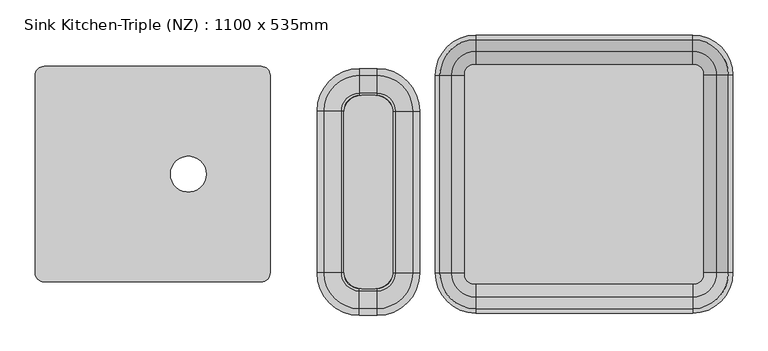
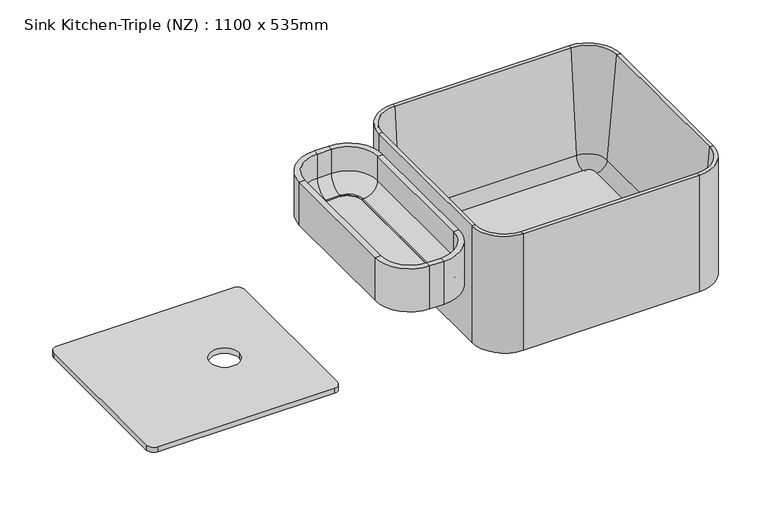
"""IFC4 building model written with IfcOpenShell, lengths in millimetres: flow terminal geometry, Sink Kitchen-Triple (NZ) : 1100 x 535mm."""

from ifc_helpers import new_model, si_unit, point, frame, frame_2d, origin, place, context, project, spatial, polyline, circle_curve, ellipse_curve, trimmed, segment, composite_curve, outline, extrude, source, transform, mapped, element, save
from ifc_brep_helpers import plane_surface, cylinder_surface, revolved_surface, advanced_brep


def sink_kitchen_triple_nz_1100_x_535mm_f9583cc0(model_context):
    return source(origin(), model_context, "Body", "SolidModel", [
        extrude(outline(composite_curve([segment(trimmed(circle_curve(frame_2d((25.2142406, 50.7704011)), 25.4), [point((25.2142406, 76.1704011))], [point((50.6142406, 50.7704011))], False, "CARTESIAN"), True, "CONTINUOUS"), segment(polyline([(50.6142406, 50.7704011), (50.6142406, -173.0795989)]), True, "CONTINUOUS"), segment(trimmed(circle_curve(frame_2d((25.2142406, -173.0795989)), 25.4), [point((50.6142406, -173.0795989))], [point((25.2142406, -198.4795989))], False, "CARTESIAN"), True, "CONTINUOUS"), segment(polyline([(25.2142406, -198.4795989), (6.1642406, -198.4795989)]), True, "CONTINUOUS"), segment(trimmed(circle_curve(frame_2d((6.1642406, -173.0795989)), 25.4), [point((6.1642406, -198.4795989))], [point((-19.2357594, -173.0795989))], False, "CARTESIAN"), True, "CONTINUOUS"), segment(polyline([(-19.2357594, -173.0795989), (-19.2357594, 50.7704011)]), True, "CONTINUOUS"), segment(trimmed(circle_curve(frame_2d((6.1642406, 50.7704011)), 25.4), [point((-19.2357594, 50.7704011))], [point((6.1642406, 76.1704011))], False, "CARTESIAN"), True, "CONTINUOUS"), segment(polyline([(6.1642406, 76.1704011), (25.2142406, 76.1704011)]), True, "CONTINUOUS")], self_intersect=False)), frame((0.0, 0.0, 820.625), z_axis=(0.0, 0.0, 1.0), x_axis=(1.0, 0.0, 0.0)), (0.0, 0.0, 1.0), 9.525),
        advanced_brep(
        [(79.1892406, 53.9454011, 900.0), (28.3892406, 104.7454011, 900.0), (28.3892406, 104.7454011, 855.55), (79.1892406, 53.9454011, 855.55), (88.7142406, 53.9454011, 900.0), (28.3892406, 114.2704011, 900.0), (88.7142406, 53.9454011, 820.625), (28.3892406, 114.2704011, 820.625), (50.6142406, 53.9454011, 820.625), (28.3892406, 76.1704011, 820.625), (50.6142406, 53.9454011, 830.15), (28.3892406, 76.1704011, 830.15), (53.7892406, 53.9454011, 830.15), (28.3892406, 79.3454011, 830.15), (79.1892406, -176.2545989, 855.55), (79.1892406, -176.2545989, 900.0), (88.7142406, -176.2545989, 900.0), (88.7142406, -176.2545989, 820.625), (50.6142406, -176.2545989, 820.625), (50.6142406, -176.2545989, 830.15), (53.7892406, -176.2545989, 830.15), (28.3892406, -227.0545989, 900.0), (28.3892406, -227.0545989, 855.55), (28.3892406, -236.5795989, 900.0), (28.3892406, -236.5795989, 820.625), (28.3892406, -198.4795989, 820.625), (28.3892406, -198.4795989, 830.15), (28.3892406, -201.6545989, 830.15), (2.9892406, -227.0545989, 855.55), (2.9892406, -227.0545989, 900.0), (2.9892406, -236.5795989, 900.0), (2.9892406, -236.5795989, 820.625), (2.9892406, -198.4795989, 820.625), (2.9892406, -198.4795989, 830.15), (2.9892406, -201.6545989, 830.15), (-47.8107594, -176.2545989, 900.0), (-47.8107594, -176.2545989, 855.55), (-57.3357594, -176.2545989, 900.0), (-57.3357594, -176.2545989, 820.625), (-19.2357594, -176.2545989, 820.625), (-19.2357594, -176.2545989, 830.15), (-22.4107594, -176.2545989, 830.15), (-47.8107594, 53.9454011, 855.55), (-47.8107594, 53.9454011, 900.0), (-57.3357594, 53.9454011, 900.0), (-57.3357594, 53.9454011, 820.625), (-19.2357594, 53.9454011, 820.625), (-19.2357594, 53.9454011, 830.15), (-22.4107594, 53.9454011, 830.15), (2.9892406, 104.7454011, 900.0), (2.9892406, 104.7454011, 855.55), (2.9892406, 114.2704011, 900.0), (2.9892406, 114.2704011, 820.625), (2.9892406, 76.1704011, 820.625), (2.9892406, 76.1704011, 830.15), (2.9892406, 79.3454011, 830.15)],
        [
            (0, 1, circle_curve(frame((28.3892406, 53.9454011, 900.0), z_axis=(0.0, 0.0, 1.0), x_axis=(0.0, 1.0, 0.0)), 50.8)),
            (1, 2),
            (2, 3, circle_curve(frame((28.3892406, 53.9454011, 855.55), z_axis=(0.0, 0.0, -1.0), x_axis=(0.0, 1.0, 0.0)), 50.8)),
            (3, 0),
            (4, 5, circle_curve(frame((28.3892406, 53.9454011, 900.0), z_axis=(0.0, 0.0, 1.0), x_axis=(0.0, 1.0, 0.0)), 60.325)),
            (5, 1),
            (0, 4),
            (6, 7, circle_curve(frame((28.3892406, 53.9454011, 820.625), z_axis=(0.0, 0.0, 1.0), x_axis=(0.0, 1.0, 0.0)), 60.325)),
            (7, 5),
            (4, 6),
            (8, 9, circle_curve(frame((28.3892406, 53.9454011, 820.625), z_axis=(0.0, 0.0, 1.0), x_axis=(0.0, 1.0, 0.0)), 22.225)),
            (9, 7),
            (6, 8),
            (10, 11, circle_curve(frame((28.3892406, 53.9454011, 830.15), z_axis=(0.0, 0.0, 1.0), x_axis=(0.0, 1.0, 0.0)), 22.225)),
            (11, 9),
            (8, 10),
            (12, 13, circle_curve(frame((28.3892406, 53.9454011, 830.15), z_axis=(0.0, 0.0, 1.0), x_axis=(0.0, 1.0, 0.0)), 25.4)),
            (13, 11),
            (10, 12),
            (2, 13, circle_curve(frame((28.3892406, 79.3454011, 855.55), z_axis=(-1.0, 0.0, 0.0), x_axis=(0.0, 1.0, 0.0)), 25.4)),
            (12, 3, circle_curve(frame((53.7892406, 53.9454011, 855.55), z_axis=(0.0, -1.0, 0.0), x_axis=(1.0, 0.0, 0.0)), 25.4)),
            (3, 14),
            (14, 15),
            (15, 0),
            (15, 16),
            (16, 4),
            (16, 17),
            (17, 6),
            (17, 18),
            (18, 8),
            (18, 19),
            (19, 10),
            (19, 20),
            (20, 12),
            (20, 14, circle_curve(frame((53.7892406, -176.2545989, 855.55), z_axis=(0.0, -1.0, 0.0), x_axis=(1.0, 0.0, 0.0)), 25.4)),
            (21, 15, circle_curve(frame((28.3892406, -176.2545989, 900.0), z_axis=(0.0, 0.0, 1.0), x_axis=(1.0, 0.0, 0.0)), 50.8)),
            (14, 22, circle_curve(frame((28.3892406, -176.2545989, 855.55), z_axis=(0.0, 0.0, -1.0), x_axis=(1.0, 0.0, 0.0)), 50.8)),
            (22, 21),
            (23, 16, circle_curve(frame((28.3892406, -176.2545989, 900.0), z_axis=(0.0, 0.0, 1.0), x_axis=(1.0, 0.0, 0.0)), 60.325)),
            (21, 23),
            (24, 17, circle_curve(frame((28.3892406, -176.2545989, 820.625), z_axis=(0.0, 0.0, 1.0), x_axis=(1.0, 0.0, 0.0)), 60.325)),
            (23, 24),
            (25, 18, circle_curve(frame((28.3892406, -176.2545989, 820.625), z_axis=(0.0, 0.0, 1.0), x_axis=(1.0, 0.0, 0.0)), 22.225)),
            (24, 25),
            (26, 19, circle_curve(frame((28.3892406, -176.2545989, 830.15), z_axis=(0.0, 0.0, 1.0), x_axis=(1.0, 0.0, 0.0)), 22.225)),
            (25, 26),
            (27, 20, circle_curve(frame((28.3892406, -176.2545989, 830.15), z_axis=(0.0, 0.0, 1.0), x_axis=(1.0, 0.0, 0.0)), 25.4)),
            (26, 27),
            (27, 22, circle_curve(frame((28.3892406, -201.6545989, 855.55), z_axis=(-1.0, 0.0, 0.0), x_axis=(0.0, -1.0, 0.0)), 25.4)),
            (22, 28),
            (28, 29),
            (29, 21),
            (29, 30),
            (30, 23),
            (30, 31),
            (31, 24),
            (31, 32),
            (32, 25),
            (32, 33),
            (33, 26),
            (33, 34),
            (34, 27),
            (34, 28, circle_curve(frame((2.9892406, -201.6545989, 855.55), z_axis=(-1.0, 0.0, 0.0), x_axis=(0.0, -1.0, 0.0)), 25.4)),
            (35, 29, circle_curve(frame((2.9892406, -176.2545989, 900.0), z_axis=(0.0, 0.0, 1.0), x_axis=(0.0, -1.0, 0.0)), 50.8)),
            (28, 36, circle_curve(frame((2.9892406, -176.2545989, 855.55), z_axis=(0.0, 0.0, -1.0), x_axis=(0.0, -1.0, 0.0)), 50.8)),
            (36, 35),
            (37, 30, circle_curve(frame((2.9892406, -176.2545989, 900.0), z_axis=(0.0, 0.0, 1.0), x_axis=(0.0, -1.0, 0.0)), 60.325)),
            (35, 37),
            (38, 31, circle_curve(frame((2.9892406, -176.2545989, 820.625), z_axis=(0.0, 0.0, 1.0), x_axis=(0.0, -1.0, 0.0)), 60.325)),
            (37, 38),
            (39, 32, circle_curve(frame((2.9892406, -176.2545989, 820.625), z_axis=(0.0, 0.0, 1.0), x_axis=(0.0, -1.0, 0.0)), 22.225)),
            (38, 39),
            (40, 33, circle_curve(frame((2.9892406, -176.2545989, 830.15), z_axis=(0.0, 0.0, 1.0), x_axis=(0.0, -1.0, 0.0)), 22.225)),
            (39, 40),
            (41, 34, circle_curve(frame((2.9892406, -176.2545989, 830.15), z_axis=(0.0, 0.0, 1.0), x_axis=(0.0, -1.0, 0.0)), 25.4)),
            (40, 41),
            (41, 36, circle_curve(frame((-22.4107594, -176.2545989, 855.55), z_axis=(0.0, 1.0, 0.0), x_axis=(-1.0, 0.0, 0.0)), 25.4)),
            (36, 42),
            (42, 43),
            (43, 35),
            (43, 44),
            (44, 37),
            (44, 45),
            (45, 38),
            (45, 46),
            (46, 39),
            (46, 47),
            (47, 40),
            (47, 48),
            (48, 41),
            (48, 42, circle_curve(frame((-22.4107594, 53.9454011, 855.55), z_axis=(0.0, 1.0, 0.0), x_axis=(-1.0, 0.0, 0.0)), 25.4)),
            (49, 43, circle_curve(frame((2.9892406, 53.9454011, 900.0), z_axis=(0.0, 0.0, 1.0), x_axis=(-1.0, 0.0, 0.0)), 50.8)),
            (42, 50, circle_curve(frame((2.9892406, 53.9454011, 855.55), z_axis=(0.0, 0.0, -1.0), x_axis=(-1.0, 0.0, 0.0)), 50.8)),
            (50, 49),
            (51, 44, circle_curve(frame((2.9892406, 53.9454011, 900.0), z_axis=(0.0, 0.0, 1.0), x_axis=(-1.0, 0.0, 0.0)), 60.325)),
            (49, 51),
            (52, 45, circle_curve(frame((2.9892406, 53.9454011, 820.625), z_axis=(0.0, 0.0, 1.0), x_axis=(-1.0, 0.0, 0.0)), 60.325)),
            (51, 52),
            (53, 46, circle_curve(frame((2.9892406, 53.9454011, 820.625), z_axis=(0.0, 0.0, 1.0), x_axis=(-1.0, 0.0, 0.0)), 22.225)),
            (52, 53),
            (54, 47, circle_curve(frame((2.9892406, 53.9454011, 830.15), z_axis=(0.0, 0.0, 1.0), x_axis=(-1.0, 0.0, 0.0)), 22.225)),
            (53, 54),
            (55, 48, circle_curve(frame((2.9892406, 53.9454011, 830.15), z_axis=(0.0, 0.0, 1.0), x_axis=(-1.0, 0.0, 0.0)), 25.4)),
            (54, 55),
            (55, 50, circle_curve(frame((2.9892406, 79.3454011, 855.55), z_axis=(1.0, 0.0, 0.0), x_axis=(0.0, 1.0, 0.0)), 25.4)),
            (50, 2),
            (1, 49),
            (5, 51),
            (7, 52),
            (9, 53),
            (11, 54),
            (13, 55),
        ],
        [
            revolved_surface(polyline([(28.3892406, 104.7454011, 855.55), (28.3892406, 104.7454011, 900.0)]), (28.3892406, 53.9454011, 0.0), (0.0, 0.0, -1.0)),
            plane_surface(frame((28.3892406, 53.9454011, 900.0), z_axis=(0.0, 0.0, 1.0), x_axis=(0.0, 1.0, 0.0))),
            cylinder_surface(frame((28.3892406, 53.9454011, 0.0), z_axis=(0.0, 0.0, -1.0), x_axis=(0.0, 1.0, 0.0)), 60.325),
            plane_surface(frame((28.3892406, 53.9454011, 820.625), z_axis=(0.0, 0.0, -1.0), x_axis=(0.0, 1.0, 0.0))),
            revolved_surface(polyline([(28.3892406, 76.17040109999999, 820.625), (28.3892406, 76.17040109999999, 830.15)]), (28.3892406, 53.9454011, 0.0), (0.0, 0.0, -1.0)),
            plane_surface(frame((28.3892406, 53.9454011, 830.15), z_axis=(0.0, 0.0, 1.0), x_axis=(0.0, 1.0, 0.0))),
            revolved_surface(trimmed(ellipse_curve(frame((28.3892406, 79.3454011, 855.55), z_axis=(1.0, 0.0, 0.0), x_axis=(0.0, 1.0, 0.0)), 25.4, 25.4), [point((28.3892406, 79.3454011, 830.15))], [point((28.3892406, 104.7454011, 855.55))], True, "CARTESIAN"), (28.3892406, 53.9454011, 0.0), (0.0, 0.0, -1.0)),
            plane_surface(frame((79.1892406, 53.9454011, 855.55), z_axis=(-1.0, 0.0, 0.0), x_axis=(0.0, -1.0, 0.0))),
            plane_surface(frame((79.1892406, 53.9454011, 900.0), z_axis=(0.0, 0.0, 1.0), x_axis=(0.0, -1.0, 0.0))),
            plane_surface(frame((88.7142406, 53.9454011, 900.0), z_axis=(1.0, 0.0, 0.0), x_axis=(0.0, -1.0, 0.0))),
            plane_surface(frame((88.7142406, 53.9454011, 820.625), z_axis=(0.0, 0.0, -1.0), x_axis=(0.0, -1.0, 0.0))),
            plane_surface(frame((50.6142406, 53.9454011, 820.625), z_axis=(-1.0, 0.0, 0.0), x_axis=(0.0, -1.0, 0.0))),
            plane_surface(frame((50.6142406, 53.9454011, 830.15), z_axis=(0.0, 0.0, 1.0), x_axis=(0.0, -1.0, 0.0))),
            revolved_surface(polyline([(79.1892406, -176.2545989, 855.55), (79.1892406, 53.9454011, 855.55)]), (53.7892406, 53.9454011, 855.55), (0.0, -1.0, 0.0)),
            revolved_surface(polyline([(79.1892406, -176.2545989, 855.55), (79.1892406, -176.2545989, 900.0)]), (28.3892406, -176.2545989, 0.0), (0.0, 0.0, -1.0)),
            plane_surface(frame((28.3892406, -176.2545989, 900.0), z_axis=(0.0, 0.0, 1.0), x_axis=(1.0, 0.0, 0.0))),
            cylinder_surface(frame((28.3892406, -176.2545989, 0.0), z_axis=(0.0, 0.0, -1.0), x_axis=(1.0, 0.0, 0.0)), 60.325),
            plane_surface(frame((28.3892406, -176.2545989, 820.625), z_axis=(0.0, 0.0, -1.0), x_axis=(1.0, 0.0, 0.0))),
            revolved_surface(polyline([(50.6142406, -176.2545989, 820.625), (50.6142406, -176.2545989, 830.15)]), (28.3892406, -176.2545989, 0.0), (0.0, 0.0, -1.0)),
            plane_surface(frame((28.3892406, -176.2545989, 830.15), z_axis=(0.0, 0.0, 1.0), x_axis=(1.0, 0.0, 0.0))),
            revolved_surface(trimmed(ellipse_curve(frame((53.7892406, -176.2545989, 855.55), z_axis=(0.0, -1.0, 0.0), x_axis=(1.0, 0.0, 0.0)), 25.4, 25.4), [point((53.7892406, -176.2545989, 830.15))], [point((79.1892406, -176.2545989, 855.55))], True, "CARTESIAN"), (28.3892406, -176.2545989, 0.0), (0.0, 0.0, -1.0)),
            plane_surface(frame((28.3892406, -227.0545989, 855.55), z_axis=(0.0, 1.0, 0.0), x_axis=(-1.0, 0.0, 0.0))),
            plane_surface(frame((28.3892406, -227.0545989, 900.0), z_axis=(0.0, 0.0, 1.0), x_axis=(-1.0, 0.0, 0.0))),
            plane_surface(frame((28.3892406, -236.5795989, 900.0), z_axis=(0.0, -1.0, 0.0), x_axis=(-1.0, 0.0, 0.0))),
            plane_surface(frame((28.3892406, -236.5795989, 820.625), z_axis=(0.0, 0.0, -1.0), x_axis=(-1.0, 0.0, 0.0))),
            plane_surface(frame((28.3892406, -198.4795989, 820.625), z_axis=(0.0, 1.0, 0.0), x_axis=(-1.0, 0.0, 0.0))),
            plane_surface(frame((28.3892406, -198.4795989, 830.15), z_axis=(0.0, 0.0, 1.0), x_axis=(-1.0, 0.0, 0.0))),
            revolved_surface(polyline([(2.9892405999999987, -227.0545989, 855.55), (28.3892406, -227.0545989, 855.55)]), (28.3892406, -201.6545989, 855.55), (-1.0, 0.0, 0.0)),
            revolved_surface(polyline([(2.9892406, -227.05459889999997, 855.55), (2.9892406, -227.05459889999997, 900.0)]), (2.9892406, -176.2545989, 0.0), (0.0, 0.0, -1.0)),
            plane_surface(frame((2.9892406, -176.2545989, 900.0), z_axis=(0.0, 0.0, 1.0), x_axis=(0.0, -1.0, 0.0))),
            cylinder_surface(frame((2.9892406, -176.2545989, 0.0), z_axis=(0.0, 0.0, -1.0), x_axis=(0.0, -1.0, 0.0)), 60.325),
            plane_surface(frame((2.9892406, -176.2545989, 820.625), z_axis=(0.0, 0.0, -1.0), x_axis=(0.0, -1.0, 0.0))),
            revolved_surface(polyline([(2.9892406, -198.47959889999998, 820.625), (2.9892406, -198.47959889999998, 830.15)]), (2.9892406, -176.2545989, 0.0), (0.0, 0.0, -1.0)),
            plane_surface(frame((2.9892406, -176.2545989, 830.15), z_axis=(0.0, 0.0, 1.0), x_axis=(0.0, -1.0, 0.0))),
            revolved_surface(trimmed(ellipse_curve(frame((2.9892406, -201.6545989, 855.55), z_axis=(-1.0, 0.0, 0.0), x_axis=(0.0, -1.0, 0.0)), 25.4, 25.4), [point((2.9892406, -201.6545989, 830.15))], [point((2.9892406, -227.0545989, 855.55))], True, "CARTESIAN"), (2.9892406, -176.2545989, 0.0), (0.0, 0.0, -1.0)),
            plane_surface(frame((-47.8107594, -176.2545989, 855.55), z_axis=(1.0, 0.0, 0.0), x_axis=(0.0, 1.0, 0.0))),
            plane_surface(frame((-47.8107594, -176.2545989, 900.0), z_axis=(0.0, 0.0, 1.0), x_axis=(0.0, 1.0, 0.0))),
            plane_surface(frame((-57.3357594, -176.2545989, 900.0), z_axis=(-1.0, 0.0, 0.0), x_axis=(0.0, 1.0, 0.0))),
            plane_surface(frame((-57.3357594, -176.2545989, 820.625), z_axis=(0.0, 0.0, -1.0), x_axis=(0.0, 1.0, 0.0))),
            plane_surface(frame((-19.2357594, -176.2545989, 820.625), z_axis=(1.0, 0.0, 0.0), x_axis=(0.0, 1.0, 0.0))),
            plane_surface(frame((-19.2357594, -176.2545989, 830.15), z_axis=(0.0, 0.0, 1.0), x_axis=(0.0, 1.0, 0.0))),
            revolved_surface(polyline([(-47.810759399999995, 53.9454011, 855.55), (-47.810759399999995, -176.2545989, 855.55)]), (-22.4107594, -176.2545989, 855.55), (0.0, 1.0, 0.0)),
            revolved_surface(polyline([(-47.810759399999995, 53.9454011, 855.55), (-47.810759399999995, 53.9454011, 900.0)]), (2.9892406, 53.9454011, 0.0), (0.0, 0.0, -1.0)),
            plane_surface(frame((2.9892406, 53.9454011, 900.0), z_axis=(0.0, 0.0, 1.0), x_axis=(-1.0, 0.0, 0.0))),
            cylinder_surface(frame((2.9892406, 53.9454011, 0.0), z_axis=(0.0, 0.0, -1.0), x_axis=(-1.0, 0.0, 0.0)), 60.325),
            plane_surface(frame((2.9892406, 53.9454011, 820.625), z_axis=(0.0, 0.0, -1.0), x_axis=(-1.0, 0.0, 0.0))),
            revolved_surface(polyline([(-19.235759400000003, 53.9454011, 820.625), (-19.235759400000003, 53.9454011, 830.15)]), (2.9892406, 53.9454011, 0.0), (0.0, 0.0, -1.0)),
            plane_surface(frame((2.9892406, 53.9454011, 830.15), z_axis=(0.0, 0.0, 1.0), x_axis=(-1.0, 0.0, 0.0))),
            revolved_surface(trimmed(ellipse_curve(frame((-22.4107594, 53.9454011, 855.55), z_axis=(0.0, 1.0, 0.0), x_axis=(-1.0, 0.0, 0.0)), 25.4, 25.4), [point((-22.4107594, 53.9454011, 830.15))], [point((-47.8107594, 53.9454011, 855.55))], True, "CARTESIAN"), (2.9892406, 53.9454011, 0.0), (0.0, 0.0, -1.0)),
            plane_surface(frame((2.9892406, 104.7454011, 855.55), z_axis=(0.0, -1.0, 0.0), x_axis=(1.0, 0.0, 0.0))),
            plane_surface(frame((2.9892406, 104.7454011, 900.0), z_axis=(0.0, 0.0, 1.0), x_axis=(1.0, 0.0, 0.0))),
            plane_surface(frame((2.9892406, 114.2704011, 900.0), z_axis=(0.0, 1.0, 0.0), x_axis=(1.0, 0.0, 0.0))),
            plane_surface(frame((2.9892406, 114.2704011, 820.625), z_axis=(0.0, 0.0, -1.0), x_axis=(1.0, 0.0, 0.0))),
            plane_surface(frame((2.9892406, 76.1704011, 820.625), z_axis=(0.0, -1.0, 0.0), x_axis=(1.0, 0.0, 0.0))),
            plane_surface(frame((2.9892406, 76.1704011, 830.15), z_axis=(0.0, 0.0, 1.0), x_axis=(1.0, 0.0, 0.0))),
            revolved_surface(polyline([(28.3892406, 104.74540110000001, 855.55), (2.9892406, 104.74540110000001, 855.55)]), (2.9892406, 79.3454011, 855.55), (1.0, 0.0, 0.0)),
        ],
        [
            (0, [[1, 2, 3, 4]]),
            (1, [[5, 6, -1, 7]]),
            (2, [[8, 9, -5, 10]]),
            (3, [[11, 12, -8, 13]]),
            (4, [[14, 15, -11, 16]]),
            (5, [[17, 18, -14, 19]]),
            (6, [[-3, 20, -17, 21]]),
            (7, [[-4, 22, 23, 24]]),
            (8, [[-7, -24, 25, 26]]),
            (9, [[-10, -26, 27, 28]]),
            (10, [[-13, -28, 29, 30]]),
            (11, [[-16, -30, 31, 32]]),
            (12, [[-19, -32, 33, 34]]),
            (13, [[-21, -34, 35, -22]]),
            (14, [[36, -23, 37, 38]]),
            (15, [[39, -25, -36, 40]]),
            (16, [[41, -27, -39, 42]]),
            (17, [[43, -29, -41, 44]]),
            (18, [[45, -31, -43, 46]]),
            (19, [[47, -33, -45, 48]]),
            (20, [[-37, -35, -47, 49]]),
            (21, [[-38, 50, 51, 52]]),
            (22, [[-40, -52, 53, 54]]),
            (23, [[-42, -54, 55, 56]]),
            (24, [[-44, -56, 57, 58]]),
            (25, [[-46, -58, 59, 60]]),
            (26, [[-48, -60, 61, 62]]),
            (27, [[-49, -62, 63, -50]]),
            (28, [[64, -51, 65, 66]]),
            (29, [[67, -53, -64, 68]]),
            (30, [[69, -55, -67, 70]]),
            (31, [[71, -57, -69, 72]]),
            (32, [[73, -59, -71, 74]]),
            (33, [[75, -61, -73, 76]]),
            (34, [[-65, -63, -75, 77]]),
            (35, [[-66, 78, 79, 80]]),
            (36, [[-68, -80, 81, 82]]),
            (37, [[-70, -82, 83, 84]]),
            (38, [[-72, -84, 85, 86]]),
            (39, [[-74, -86, 87, 88]]),
            (40, [[-76, -88, 89, 90]]),
            (41, [[-77, -90, 91, -78]]),
            (42, [[92, -79, 93, 94]]),
            (43, [[95, -81, -92, 96]]),
            (44, [[97, -83, -95, 98]]),
            (45, [[99, -85, -97, 100]]),
            (46, [[101, -87, -99, 102]]),
            (47, [[103, -89, -101, 104]]),
            (48, [[-93, -91, -103, 105]]),
            (49, [[-94, 106, -2, 107]]),
            (50, [[-96, -107, -6, 108]]),
            (51, [[-98, -108, -9, 109]]),
            (52, [[-100, -109, -12, 110]]),
            (53, [[-102, -110, -15, 111]]),
            (54, [[-104, -111, -18, 112]]),
            (55, [[-105, -112, -20, -106]]),
        ],
    ),
        extrude(outline(composite_curve([segment(polyline([(165.5008224, 120.0338193), (479.3776588, 120.0338193)]), True, "CONTINUOUS"), segment(trimmed(circle_curve(frame_2d((479.3776588, 107.3338193)), 12.7), [point((479.3776588, 120.0338193))], [point((492.0776588, 107.3338193))], False, "CARTESIAN"), True, "CONTINUOUS"), segment(polyline([(492.0776588, 107.3338193), (492.0776588, -178.8430171)]), True, "CONTINUOUS"), segment(trimmed(circle_curve(frame_2d((479.3776588, -178.8430171)), 12.7), [point((492.0776588, -178.8430171))], [point((479.3776588, -191.5430171))], False, "CARTESIAN"), True, "CONTINUOUS"), segment(polyline([(479.3776588, -191.5430171), (165.5008224, -191.5430171)]), True, "CONTINUOUS"), segment(trimmed(circle_curve(frame_2d((165.5008224, -178.8430171)), 12.7), [point((165.5008224, -191.5430171))], [point((152.8008224, -178.8430171))], False, "CARTESIAN"), True, "CONTINUOUS"), segment(polyline([(152.8008224, -178.8430171), (152.8008224, 107.3338193)]), True, "CONTINUOUS"), segment(trimmed(circle_curve(frame_2d((165.5008224, 107.3338193)), 12.7), [point((152.8008224, 107.3338193))], [point((165.5008224, 120.0338193))], False, "CARTESIAN"), True, "CONTINUOUS")], self_intersect=False)), frame((0.0, 0.0, 684.1), z_axis=(0.0, 0.0, 1.0), x_axis=(1.0, 0.0, 0.0)), (0.0, 0.0, 1.0), 9.525),
        advanced_brep(
        [(117.2892406, 104.7454011, 900.0), (168.0892406, 155.5454011, 900.0), (168.0892406, 161.8954011, 900.0), (110.9392406, 104.7454011, 900.0), (133.8233134, 104.7454011, 711.0146831), (168.0892406, 139.0113283, 711.0146831), (152.8008224, 104.7454011, 693.625), (168.0892406, 120.0338193, 693.625), (155.3892406, 104.7454011, 693.625), (168.0892406, 117.4454011, 693.625), (155.3892406, 104.7454011, 684.1), (168.0892406, 117.4454011, 684.1), (110.9392406, 104.7454011, 684.1), (168.0892406, 161.8954011, 684.1), (110.9392406, -176.2545989, 900.0), (117.2892406, -176.2545989, 900.0), (133.8233134, -176.2545989, 711.0146831), (152.8008224, -176.2545989, 693.625), (155.3892406, -176.2545989, 693.625), (155.3892406, -176.2545989, 684.1), (110.9392406, -176.2545989, 684.1), (168.0892406, -227.0545989, 900.0), (168.0892406, -233.4045989, 900.0), (168.0892406, -210.5205261, 711.0146831), (168.0892406, -191.5430171, 693.625), (168.0892406, -188.9545989, 693.625), (168.0892406, -188.9545989, 684.1), (168.0892406, -233.4045989, 684.1), (476.7892406, -233.4045989, 900.0), (476.7892406, -227.0545989, 900.0), (476.7892406, -210.5205261, 711.0146831), (476.7892406, -191.5430171, 693.625), (476.7892406, -188.9545989, 693.625), (476.7892406, -188.9545989, 684.1), (476.7892406, -233.4045989, 684.1), (527.5892406, -176.2545989, 900.0), (533.9392406, -176.2545989, 900.0), (511.0551678, -176.2545989, 711.0146831), (492.0776588, -176.2545989, 693.625), (489.4892406, -176.2545989, 693.625), (489.4892406, -176.2545989, 684.1), (533.9392406, -176.2545989, 684.1), (533.9392406, 104.7454011, 900.0), (527.5892406, 104.7454011, 900.0), (511.0551678, 104.7454011, 711.0146831), (492.0776588, 104.7454011, 693.625), (489.4892406, 104.7454011, 693.625), (489.4892406, 104.7454011, 684.1), (533.9392406, 104.7454011, 684.1), (476.7892406, 155.5454011, 900.0), (476.7892406, 161.8954011, 900.0), (476.7892406, 139.0113283, 711.0146831), (476.7892406, 120.0338193, 693.625), (476.7892406, 117.4454011, 693.625), (476.7892406, 117.4454011, 684.1), (476.7892406, 161.8954011, 684.1)],
        [
            (0, 1, circle_curve(frame((168.0892406, 104.7454011, 900.0), z_axis=(0.0, 0.0, -1.0), x_axis=(0.0, 1.0, 0.0)), 50.8)),
            (1, 2),
            (2, 3, circle_curve(frame((168.0892406, 104.7454011, 900.0), z_axis=(0.0, 0.0, 1.0), x_axis=(0.0, 1.0, 0.0)), 57.15)),
            (3, 0),
            (4, 5, circle_curve(frame((168.0892406, 104.7454011, 711.0146831), z_axis=(0.0, 0.0, -1.0), x_axis=(0.0, 1.0, 0.0)), 34.2659272)),
            (5, 1),
            (0, 4),
            (6, 7, circle_curve(frame((168.0892406, 104.7454011, 693.625), z_axis=(0.0, 0.0, -1.0), x_axis=(0.0, 1.0, 0.0)), 15.2884182)),
            (7, 5, circle_curve(frame((168.0892406, 120.0338193, 712.675), z_axis=(1.0, 0.0, 0.0), x_axis=(0.0, -1.0, 0.0)), 19.05)),
            (4, 6, circle_curve(frame((152.8008224, 104.7454011, 712.675), z_axis=(0.0, -1.0, 0.0), x_axis=(1.0, 0.0, 0.0)), 19.05)),
            (8, 9, circle_curve(frame((168.0892406, 104.7454011, 693.625), z_axis=(0.0, 0.0, -1.0), x_axis=(0.0, 1.0, 0.0)), 12.7)),
            (9, 7),
            (6, 8),
            (10, 11, circle_curve(frame((168.0892406, 104.7454011, 684.1), z_axis=(0.0, 0.0, -1.0), x_axis=(0.0, 1.0, 0.0)), 12.7)),
            (11, 9),
            (8, 10),
            (12, 13, circle_curve(frame((168.0892406, 104.7454011, 684.1), z_axis=(0.0, 0.0, -1.0), x_axis=(0.0, 1.0, 0.0)), 57.15)),
            (13, 11),
            (10, 12),
            (2, 13),
            (12, 3),
            (3, 14),
            (14, 15),
            (15, 0),
            (15, 16),
            (16, 4),
            (16, 17, circle_curve(frame((152.8008224, -176.2545989, 712.675), z_axis=(0.0, -1.0, 0.0), x_axis=(1.0, 0.0, 0.0)), 19.05)),
            (17, 6),
            (17, 18),
            (18, 8),
            (18, 19),
            (19, 10),
            (19, 20),
            (20, 12),
            (20, 14),
            (21, 15, circle_curve(frame((168.0892406, -176.2545989, 900.0), z_axis=(0.0, 0.0, -1.0), x_axis=(-1.0, 0.0, 0.0)), 50.8)),
            (14, 22, circle_curve(frame((168.0892406, -176.2545989, 900.0), z_axis=(0.0, 0.0, 1.0), x_axis=(-1.0, 0.0, 0.0)), 57.15)),
            (22, 21),
            (23, 16, circle_curve(frame((168.0892406, -176.2545989, 711.0146831), z_axis=(0.0, 0.0, -1.0), x_axis=(-1.0, 0.0, 0.0)), 34.2659272)),
            (21, 23),
            (24, 17, circle_curve(frame((168.0892406, -176.2545989, 693.625), z_axis=(0.0, 0.0, -1.0), x_axis=(-1.0, 0.0, 0.0)), 15.2884182)),
            (23, 24, circle_curve(frame((168.0892406, -191.5430171, 712.675), z_axis=(1.0, 0.0, 0.0), x_axis=(0.0, 1.0, 0.0)), 19.05)),
            (25, 18, circle_curve(frame((168.0892406, -176.2545989, 693.625), z_axis=(0.0, 0.0, -1.0), x_axis=(-1.0, 0.0, 0.0)), 12.7)),
            (24, 25),
            (26, 19, circle_curve(frame((168.0892406, -176.2545989, 684.1), z_axis=(0.0, 0.0, -1.0), x_axis=(-1.0, 0.0, 0.0)), 12.7)),
            (25, 26),
            (27, 20, circle_curve(frame((168.0892406, -176.2545989, 684.1), z_axis=(0.0, 0.0, -1.0), x_axis=(-1.0, 0.0, 0.0)), 57.15)),
            (26, 27),
            (27, 22),
            (22, 28),
            (28, 29),
            (29, 21),
            (29, 30),
            (30, 23),
            (30, 31, circle_curve(frame((476.7892406, -191.5430171, 712.675), z_axis=(1.0, 0.0, 0.0), x_axis=(0.0, 1.0, 0.0)), 19.05)),
            (31, 24),
            (31, 32),
            (32, 25),
            (32, 33),
            (33, 26),
            (33, 34),
            (34, 27),
            (34, 28),
            (35, 29, circle_curve(frame((476.7892406, -176.2545989, 900.0), z_axis=(0.0, 0.0, -1.0), x_axis=(0.0, -1.0, 0.0)), 50.8)),
            (28, 36, circle_curve(frame((476.7892406, -176.2545989, 900.0), z_axis=(0.0, 0.0, 1.0), x_axis=(0.0, -1.0, 0.0)), 57.15)),
            (36, 35),
            (37, 30, circle_curve(frame((476.7892406, -176.2545989, 711.0146831), z_axis=(0.0, 0.0, -1.0), x_axis=(0.0, -1.0, 0.0)), 34.2659272)),
            (35, 37),
            (38, 31, circle_curve(frame((476.7892406, -176.2545989, 693.625), z_axis=(0.0, 0.0, -1.0), x_axis=(0.0, -1.0, 0.0)), 15.2884182)),
            (37, 38, circle_curve(frame((492.0776588, -176.2545989, 712.675), z_axis=(0.0, 1.0, 0.0), x_axis=(-1.0, 0.0, 0.0)), 19.05)),
            (39, 32, circle_curve(frame((476.7892406, -176.2545989, 693.625), z_axis=(0.0, 0.0, -1.0), x_axis=(0.0, -1.0, 0.0)), 12.7)),
            (38, 39),
            (40, 33, circle_curve(frame((476.7892406, -176.2545989, 684.1), z_axis=(0.0, 0.0, -1.0), x_axis=(0.0, -1.0, 0.0)), 12.7)),
            (39, 40),
            (41, 34, circle_curve(frame((476.7892406, -176.2545989, 684.1), z_axis=(0.0, 0.0, -1.0), x_axis=(0.0, -1.0, 0.0)), 57.15)),
            (40, 41),
            (41, 36),
            (36, 42),
            (42, 43),
            (43, 35),
            (43, 44),
            (44, 37),
            (44, 45, circle_curve(frame((492.0776588, 104.7454011, 712.675), z_axis=(0.0, 1.0, 0.0), x_axis=(-1.0, 0.0, 0.0)), 19.05)),
            (45, 38),
            (45, 46),
            (46, 39),
            (46, 47),
            (47, 40),
            (47, 48),
            (48, 41),
            (48, 42),
            (49, 43, circle_curve(frame((476.7892406, 104.7454011, 900.0), z_axis=(0.0, 0.0, -1.0), x_axis=(1.0, 0.0, 0.0)), 50.8)),
            (42, 50, circle_curve(frame((476.7892406, 104.7454011, 900.0), z_axis=(0.0, 0.0, 1.0), x_axis=(1.0, 0.0, 0.0)), 57.15)),
            (50, 49),
            (51, 44, circle_curve(frame((476.7892406, 104.7454011, 711.0146831), z_axis=(0.0, 0.0, -1.0), x_axis=(1.0, 0.0, 0.0)), 34.2659272)),
            (49, 51),
            (52, 45, circle_curve(frame((476.7892406, 104.7454011, 693.625), z_axis=(0.0, 0.0, -1.0), x_axis=(1.0, 0.0, 0.0)), 15.2884182)),
            (51, 52, circle_curve(frame((476.7892406, 120.0338193, 712.675), z_axis=(-1.0, 0.0, 0.0), x_axis=(0.0, -1.0, 0.0)), 19.05)),
            (53, 46, circle_curve(frame((476.7892406, 104.7454011, 693.625), z_axis=(0.0, 0.0, -1.0), x_axis=(1.0, 0.0, 0.0)), 12.7)),
            (52, 53),
            (54, 47, circle_curve(frame((476.7892406, 104.7454011, 684.1), z_axis=(0.0, 0.0, -1.0), x_axis=(1.0, 0.0, 0.0)), 12.7)),
            (53, 54),
            (55, 48, circle_curve(frame((476.7892406, 104.7454011, 684.1), z_axis=(0.0, 0.0, -1.0), x_axis=(1.0, 0.0, 0.0)), 57.15)),
            (54, 55),
            (55, 50),
            (50, 2),
            (1, 49),
            (5, 51),
            (7, 52),
            (9, 53),
            (11, 54),
            (13, 55),
        ],
        [
            plane_surface(frame((168.0892406, 104.7454011, 900.0), z_axis=(0.0, 0.0, 1.0), x_axis=(0.0, 1.0, 0.0))),
            revolved_surface(polyline([(168.0892406, 155.5454011, 900.0), (168.0892406, 139.0113283, 711.0146831)]), (168.0892406, 104.7454011, 0.0), (0.0, 0.0, 1.0)),
            revolved_surface(trimmed(ellipse_curve(frame((168.0892406, 120.0338193, 712.675), z_axis=(-1.0, 0.0, 0.0), x_axis=(0.0, -1.0, 0.0)), 19.05, 19.05), [point((168.0892406, 139.0113283, 711.0146831))], [point((168.0892406, 120.0338193, 693.625))], True, "CARTESIAN"), (168.0892406, 104.7454011, 0.0), (0.0, 0.0, 1.0)),
            plane_surface(frame((168.0892406, 104.7454011, 693.625), z_axis=(0.0, 0.0, 1.0), x_axis=(0.0, 1.0, 0.0))),
            revolved_surface(polyline([(168.0892406, 117.4454011, 693.625), (168.0892406, 117.4454011, 684.1)]), (168.0892406, 104.7454011, 0.0), (0.0, 0.0, 1.0)),
            plane_surface(frame((168.0892406, 104.7454011, 684.1), z_axis=(0.0, 0.0, -1.0), x_axis=(0.0, 1.0, 0.0))),
            cylinder_surface(frame((168.0892406, 104.7454011, 0.0), z_axis=(0.0, 0.0, 1.0), x_axis=(0.0, 1.0, 0.0)), 57.15),
            plane_surface(frame((110.9392406, 104.7454011, 900.0), z_axis=(0.0, 0.0, 1.0), x_axis=(0.0, -1.0, 0.0))),
            plane_surface(frame((117.2892406, 104.7454011, 900.0), z_axis=(0.9961946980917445, 0.0, 0.08715574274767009), x_axis=(0.0, -1.0, 0.0))),
            revolved_surface(polyline([(171.8508224, -176.25459890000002, 712.675), (171.8508224, 104.7454011, 712.675)]), (152.8008224, 104.7454011, 712.675), (0.0, -1.0, 0.0)),
            plane_surface(frame((152.8008224, 104.7454011, 693.625), z_axis=(0.0, 0.0, 1.0), x_axis=(0.0, -1.0, 0.0))),
            plane_surface(frame((155.3892406, 104.7454011, 693.625), z_axis=(1.0, 0.0, 0.0), x_axis=(0.0, -1.0, 0.0))),
            plane_surface(frame((155.3892406, 104.7454011, 684.1), z_axis=(0.0, 0.0, -1.0), x_axis=(0.0, -1.0, 0.0))),
            plane_surface(frame((110.9392406, 104.7454011, 684.1), z_axis=(-1.0, 0.0, 0.0), x_axis=(0.0, -1.0, 0.0))),
            plane_surface(frame((168.0892406, -176.2545989, 900.0), z_axis=(0.0, 0.0, 1.0), x_axis=(-1.0, 0.0, 0.0))),
            revolved_surface(polyline([(117.2892406, -176.2545989, 900.0), (133.8233134, -176.2545989, 711.0146831)]), (168.0892406, -176.2545989, 0.0), (0.0, 0.0, 1.0)),
            revolved_surface(trimmed(ellipse_curve(frame((152.8008224, -176.2545989, 712.675), z_axis=(0.0, -1.0, 0.0), x_axis=(1.0, 0.0, 0.0)), 19.05, 19.05), [point((133.8233134, -176.2545989, 711.0146831))], [point((152.8008224, -176.2545989, 693.625))], True, "CARTESIAN"), (168.0892406, -176.2545989, 0.0), (0.0, 0.0, 1.0)),
            plane_surface(frame((168.0892406, -176.2545989, 693.625), z_axis=(0.0, 0.0, 1.0), x_axis=(-1.0, 0.0, 0.0))),
            revolved_surface(polyline([(155.38924060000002, -176.2545989, 693.625), (155.38924060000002, -176.2545989, 684.1)]), (168.0892406, -176.2545989, 0.0), (0.0, 0.0, 1.0)),
            plane_surface(frame((168.0892406, -176.2545989, 684.1), z_axis=(0.0, 0.0, -1.0), x_axis=(-1.0, 0.0, 0.0))),
            cylinder_surface(frame((168.0892406, -176.2545989, 0.0), z_axis=(0.0, 0.0, 1.0), x_axis=(-1.0, 0.0, 0.0)), 57.15),
            plane_surface(frame((168.0892406, -233.4045989, 900.0), z_axis=(0.0, 0.0, 1.0), x_axis=(1.0, 0.0, 0.0))),
            plane_surface(frame((168.0892406, -227.0545989, 900.0), z_axis=(0.0, 0.9961946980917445, 0.08715574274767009), x_axis=(1.0, 0.0, 0.0))),
            revolved_surface(polyline([(476.7892406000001, -172.49301709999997, 712.675), (168.0892406, -172.49301709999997, 712.675)]), (168.0892406, -191.5430171, 712.675), (1.0, 0.0, 0.0)),
            plane_surface(frame((168.0892406, -191.5430171, 693.625), z_axis=(0.0, 0.0, 1.0), x_axis=(1.0, 0.0, 0.0))),
            plane_surface(frame((168.0892406, -188.9545989, 693.625), z_axis=(0.0, 1.0, 0.0), x_axis=(1.0, 0.0, 0.0))),
            plane_surface(frame((168.0892406, -188.9545989, 684.1), z_axis=(0.0, 0.0, -1.0), x_axis=(1.0, 0.0, 0.0))),
            plane_surface(frame((168.0892406, -233.4045989, 684.1), z_axis=(0.0, -1.0, 0.0), x_axis=(1.0, 0.0, 0.0))),
            plane_surface(frame((476.7892406, -176.2545989, 900.0), z_axis=(0.0, 0.0, 1.0), x_axis=(0.0, -1.0, 0.0))),
            revolved_surface(polyline([(476.7892406, -227.0545989, 900.0), (476.7892406, -210.5205261, 711.0146831)]), (476.7892406, -176.2545989, 0.0), (0.0, 0.0, 1.0)),
            revolved_surface(trimmed(ellipse_curve(frame((476.7892406, -191.5430171, 712.675), z_axis=(1.0, 0.0, 0.0), x_axis=(0.0, 1.0, 0.0)), 19.05, 19.05), [point((476.7892406, -210.5205261, 711.0146831))], [point((476.7892406, -191.5430171, 693.625))], True, "CARTESIAN"), (476.7892406, -176.2545989, 0.0), (0.0, 0.0, 1.0)),
            plane_surface(frame((476.7892406, -176.2545989, 693.625), z_axis=(0.0, 0.0, 1.0), x_axis=(0.0, -1.0, 0.0))),
            revolved_surface(polyline([(476.7892406, -188.95459889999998, 693.625), (476.7892406, -188.95459889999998, 684.1)]), (476.7892406, -176.2545989, 0.0), (0.0, 0.0, 1.0)),
            plane_surface(frame((476.7892406, -176.2545989, 684.1), z_axis=(0.0, 0.0, -1.0), x_axis=(0.0, -1.0, 0.0))),
            cylinder_surface(frame((476.7892406, -176.2545989, 0.0), z_axis=(0.0, 0.0, 1.0), x_axis=(0.0, -1.0, 0.0)), 57.15),
            plane_surface(frame((533.9392406, -176.2545989, 900.0), z_axis=(0.0, 0.0, 1.0), x_axis=(0.0, 1.0, 0.0))),
            plane_surface(frame((527.5892406, -176.2545989, 900.0), z_axis=(-0.9961946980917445, 0.0, 0.08715574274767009), x_axis=(0.0, 1.0, 0.0))),
            revolved_surface(polyline([(473.0276588, 104.74540110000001, 712.675), (473.0276588, -176.2545989, 712.675)]), (492.0776588, -176.2545989, 712.675), (0.0, 1.0, 0.0)),
            plane_surface(frame((492.0776588, -176.2545989, 693.625), z_axis=(0.0, 0.0, 1.0), x_axis=(0.0, 1.0, 0.0))),
            plane_surface(frame((489.4892406, -176.2545989, 693.625), z_axis=(-1.0, 0.0, 0.0), x_axis=(0.0, 1.0, 0.0))),
            plane_surface(frame((489.4892406, -176.2545989, 684.1), z_axis=(0.0, 0.0, -1.0), x_axis=(0.0, 1.0, 0.0))),
            plane_surface(frame((533.9392406, -176.2545989, 684.1), z_axis=(1.0, 0.0, 0.0), x_axis=(0.0, 1.0, 0.0))),
            plane_surface(frame((476.7892406, 104.7454011, 900.0), z_axis=(0.0, 0.0, 1.0), x_axis=(1.0, 0.0, 0.0))),
            revolved_surface(polyline([(527.5892406, 104.7454011, 900.0), (511.0551678, 104.7454011, 711.0146831)]), (476.7892406, 104.7454011, 0.0), (0.0, 0.0, 1.0)),
            revolved_surface(trimmed(ellipse_curve(frame((492.0776588, 104.7454011, 712.675), z_axis=(0.0, 1.0, 0.0), x_axis=(-1.0, 0.0, 0.0)), 19.05, 19.05), [point((511.0551678, 104.7454011, 711.0146831))], [point((492.0776588, 104.7454011, 693.625))], True, "CARTESIAN"), (476.7892406, 104.7454011, 0.0), (0.0, 0.0, 1.0)),
            plane_surface(frame((476.7892406, 104.7454011, 693.625), z_axis=(0.0, 0.0, 1.0), x_axis=(1.0, 0.0, 0.0))),
            revolved_surface(polyline([(489.4892406, 104.7454011, 693.625), (489.4892406, 104.7454011, 684.1)]), (476.7892406, 104.7454011, 0.0), (0.0, 0.0, 1.0)),
            plane_surface(frame((476.7892406, 104.7454011, 684.1), z_axis=(0.0, 0.0, -1.0), x_axis=(1.0, 0.0, 0.0))),
            cylinder_surface(frame((476.7892406, 104.7454011, 0.0), z_axis=(0.0, 0.0, 1.0), x_axis=(1.0, 0.0, 0.0)), 57.15),
            plane_surface(frame((476.7892406, 161.8954011, 900.0), z_axis=(0.0, 0.0, 1.0), x_axis=(-1.0, 0.0, 0.0))),
            plane_surface(frame((476.7892406, 155.5454011, 900.0), z_axis=(0.0, -0.9961946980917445, 0.08715574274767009), x_axis=(-1.0, 0.0, 0.0))),
            revolved_surface(polyline([(168.08924059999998, 100.98381930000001, 712.675), (476.7892406, 100.98381930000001, 712.675)]), (476.7892406, 120.0338193, 712.675), (-1.0, 0.0, 0.0)),
            plane_surface(frame((476.7892406, 120.0338193, 693.625), z_axis=(0.0, 0.0, 1.0), x_axis=(-1.0, 0.0, 0.0))),
            plane_surface(frame((476.7892406, 117.4454011, 693.625), z_axis=(0.0, -1.0, 0.0), x_axis=(-1.0, 0.0, 0.0))),
            plane_surface(frame((476.7892406, 117.4454011, 684.1), z_axis=(0.0, 0.0, -1.0), x_axis=(-1.0, 0.0, 0.0))),
            plane_surface(frame((476.7892406, 161.8954011, 684.1), z_axis=(0.0, 1.0, 0.0), x_axis=(-1.0, 0.0, 0.0))),
        ],
        [
            (0, [[1, 2, 3, 4]]),
            (1, [[5, 6, -1, 7]]),
            (2, [[8, 9, -5, 10]]),
            (3, [[11, 12, -8, 13]]),
            (4, [[14, 15, -11, 16]]),
            (5, [[17, 18, -14, 19]]),
            (6, [[-3, 20, -17, 21]]),
            (7, [[-4, 22, 23, 24]]),
            (8, [[-7, -24, 25, 26]]),
            (9, [[-10, -26, 27, 28]]),
            (10, [[-13, -28, 29, 30]]),
            (11, [[-16, -30, 31, 32]]),
            (12, [[-19, -32, 33, 34]]),
            (13, [[-21, -34, 35, -22]]),
            (14, [[36, -23, 37, 38]]),
            (15, [[39, -25, -36, 40]]),
            (16, [[41, -27, -39, 42]]),
            (17, [[43, -29, -41, 44]]),
            (18, [[45, -31, -43, 46]]),
            (19, [[47, -33, -45, 48]]),
            (20, [[-37, -35, -47, 49]]),
            (21, [[-38, 50, 51, 52]]),
            (22, [[-40, -52, 53, 54]]),
            (23, [[-42, -54, 55, 56]]),
            (24, [[-44, -56, 57, 58]]),
            (25, [[-46, -58, 59, 60]]),
            (26, [[-48, -60, 61, 62]]),
            (27, [[-49, -62, 63, -50]]),
            (28, [[64, -51, 65, 66]]),
            (29, [[67, -53, -64, 68]]),
            (30, [[69, -55, -67, 70]]),
            (31, [[71, -57, -69, 72]]),
            (32, [[73, -59, -71, 74]]),
            (33, [[75, -61, -73, 76]]),
            (34, [[-65, -63, -75, 77]]),
            (35, [[-66, 78, 79, 80]]),
            (36, [[-68, -80, 81, 82]]),
            (37, [[-70, -82, 83, 84]]),
            (38, [[-72, -84, 85, 86]]),
            (39, [[-74, -86, 87, 88]]),
            (40, [[-76, -88, 89, 90]]),
            (41, [[-77, -90, 91, -78]]),
            (42, [[92, -79, 93, 94]]),
            (43, [[95, -81, -92, 96]]),
            (44, [[97, -83, -95, 98]]),
            (45, [[99, -85, -97, 100]]),
            (46, [[101, -87, -99, 102]]),
            (47, [[103, -89, -101, 104]]),
            (48, [[-93, -91, -103, 105]]),
            (49, [[-94, 106, -2, 107]]),
            (50, [[-96, -107, -6, 108]]),
            (51, [[-98, -108, -9, 109]]),
            (52, [[-100, -109, -12, 110]]),
            (53, [[-102, -110, -15, 111]]),
            (54, [[-104, -111, -18, 112]]),
            (55, [[-105, -112, -20, -106]]),
        ],
    ),
        extrude(outline(composite_curve([segment(trimmed(circle_curve(frame_2d((-136.7107594, 104.7454011)), 12.7), [point((-136.7107594, 117.4454011))], [point((-124.0107594, 104.7454011))], False, "CARTESIAN"), True, "CONTINUOUS"), segment(polyline([(-124.0107594, 104.7454011), (-124.0107594, -176.2545989)]), True, "CONTINUOUS"), segment(trimmed(circle_curve(frame_2d((-136.7107594, -176.2545989)), 12.7), [point((-124.0107594, -176.2545989))], [point((-136.7107594, -188.9545989))], False, "CARTESIAN"), True, "CONTINUOUS"), segment(polyline([(-136.7107594, -188.9545989), (-445.4107594, -188.9545989)]), True, "CONTINUOUS"), segment(trimmed(circle_curve(frame_2d((-445.4107594, -176.2545989)), 12.7), [point((-445.4107594, -188.9545989))], [point((-458.1107594, -176.2545989))], False, "CARTESIAN"), True, "CONTINUOUS"), segment(polyline([(-458.1107594, -176.2545989), (-458.1107594, 104.7454011)]), True, "CONTINUOUS"), segment(trimmed(circle_curve(frame_2d((-445.4107594, 104.7454011)), 12.7), [point((-458.1107594, 104.7454011))], [point((-445.4107594, 117.4454011))], False, "CARTESIAN"), True, "CONTINUOUS"), segment(polyline([(-445.4107594, 117.4454011), (-136.7107594, 117.4454011)]), True, "CONTINUOUS")], self_intersect=False), holes=[composite_curve([segment(trimmed(circle_curve(frame_2d((-240.2607594, -35.7545989)), 25.4), [point((-265.6607594, -35.7545989))], [point((-214.8607594, -35.7545989))], True, "CARTESIAN"), True, "CONTINUOUS"), segment(trimmed(circle_curve(frame_2d((-240.2607594, -35.7545989)), 25.4), [point((-214.8607594, -35.7545989))], [point((-265.6607594, -35.7545989))], True, "CARTESIAN"), True, "CONTINUOUS")], self_intersect=False)]), frame((0.0, 0.0, 684.1), z_axis=(0.0, 0.0, 1.0), x_axis=(1.0, 0.0, 0.0)), (0.0, 0.0, 1.0), 9.525),
    ])


if __name__ == "__main__":
    model = new_model("IFC4")
    model_context = context("Model", 3, world=origin())
    ifc_project = project(units=[si_unit("LENGTHUNIT", "METRE", prefix="MILLI")], contexts=[model_context])
    site = spatial("IfcSite", under=ifc_project)
    building = spatial("IfcBuilding", under=site)
    placement = place(None, origin())
    sink_kitchen_triple_nz_1100_x_535mm_shape = sink_kitchen_triple_nz_1100_x_535mm_f9583cc0(model_context)
    element("IfcFlowTerminal", 1, ObjectType="Sink Kitchen-Triple (NZ) : 1100 x 535mm", at=placement, inside=building, context=model_context, shape_type="MappedRepresentation", body=[
        mapped(sink_kitchen_triple_nz_1100_x_535mm_shape, transform((0.0, 0.0, 0.0), x_axis=(1.0, 0.0, 0.0), y_axis=(0.0, 1.0, 0.0), z_axis=(0.0, 0.0, 1.0))),
    ])
    save(model, "model.ifc")
